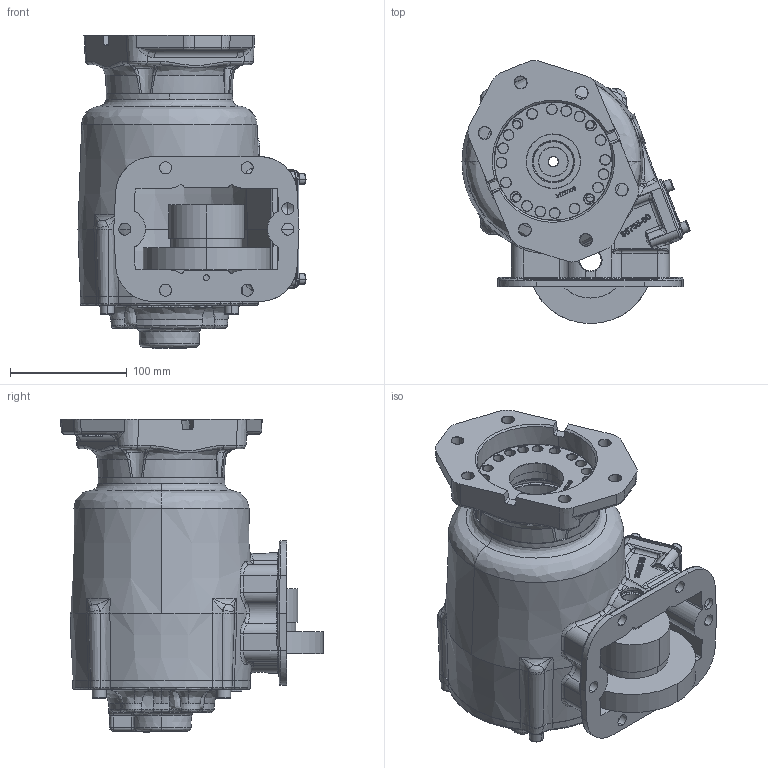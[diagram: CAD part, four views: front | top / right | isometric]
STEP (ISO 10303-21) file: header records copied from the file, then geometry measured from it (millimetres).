
FILE_DESCRIPTION (( 'STEP AP203' ), '1' );
FILE_NAME ('CS6S-XXXXX-X3KX.STEP', '2011-11-29T19:59:12', ( 'User' ), ( 'Muncie Power Products, Inc.' ), 'SwSTEP 2.0', 'SolidWorks 2011', '' );
FILE_SCHEMA (( 'CONFIG_CONTROL_DESIGN' ));
Length unit declared in the file: inch
Products named in the file (3): CS6S-XXXXX-X3KX; 14T37779; CS6S-XXXXX-X3DX
Assembly tree (2 placements, depth 2):
  CS6S-XXXXX-X3KX
    CS6S-XXXXX-X3DX
    14T37779
Bounding box: 195.33 x 225.18 x 268.87 mm (x, y, z)
Volume: 1677273.5 mm3; surface area: 431994.2 mm2
Topology: 13 solids, 13 shells, 2454 faces, 6336 edges, 3967 vertices
Faces by surface type: bspline 1067, plane 569, cylinder 446, cone 323, torus 36, sphere 13
Entity records: 158372 total; most frequent: CARTESIAN_POINT 106307, ORIENTED_EDGE 12532, DIRECTION 7615, EDGE_CURVE 6266, VERTEX_POINT 3967, EDGE_LOOP 2707, AXIS2_PLACEMENT_3D 2590, B_SPLINE_CURVE_WITH_KNOTS 2515
